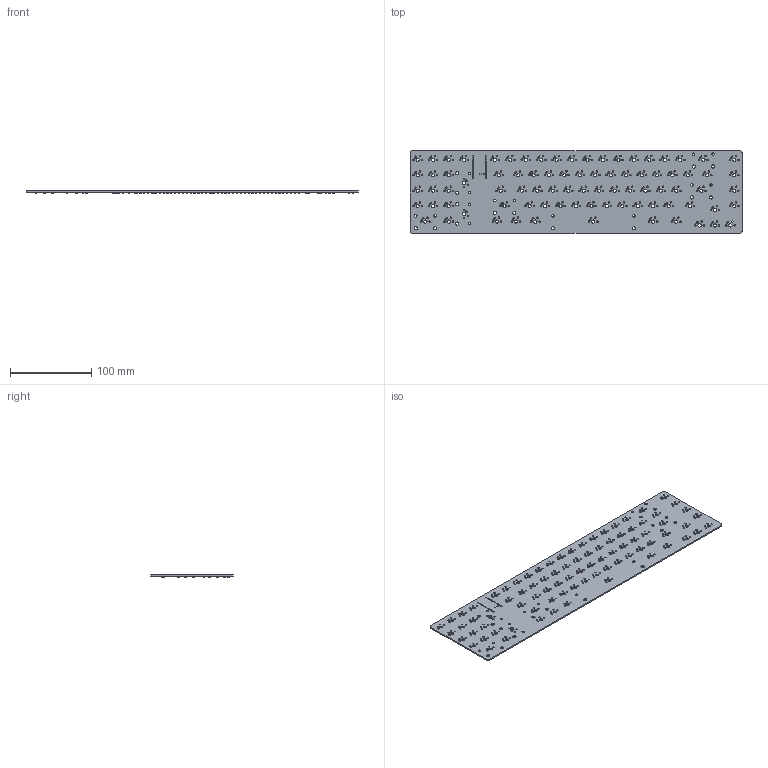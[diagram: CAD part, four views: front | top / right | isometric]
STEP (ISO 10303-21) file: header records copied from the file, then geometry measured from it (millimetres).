
FILE_DESCRIPTION(('KiCad electronic assembly'),'2;1');
FILE_NAME('SP-65-LTv1.step','2022-04-27T18:54:50',('An Author'),( 'A Company'),'Open CASCADE STEP processor 6.9', 'KiCad to STEP converter','Unknown');
FILE_SCHEMA(('AUTOMOTIVE_DESIGN { 1 0 10303 214 1 1 1 1 }'));
Length unit declared in the file: millimetre
Products named in the file (4): Open CASCADE STEP translator 6.9 1; D_SOD-123; SOLID; COMPOUND
Assembly tree (86 placements, depth 3):
  Open CASCADE STEP translator 6.9 1
    D_SOD-123  x84
      SOLID
    COMPOUND
Bounding box: 409.57 x 101.6 x 2.9 mm (x, y, z)
Volume: 63380 mm3; surface area: 87874.4 mm2
Topology: 85 solids, 85 shells, 6447 faces, 15555 edges, 9362 vertices
Faces by surface type: plane 2778, bspline 2184, cylinder 1485
Full cylindrical faces by diameter (mm): 1.092 x27, 1.47 x168, 1.75 x168, 3.048 x14, 3.988 x98
Entity records: 67400 total; most frequent: CARTESIAN_POINT 11060, DIRECTION 10935, ORIENTED_EDGE 5214, PCURVE 5214, DEFINITIONAL_REPRESENTATION 5214, LINE 4123, VECTOR 4123, CIRCLE 3276
